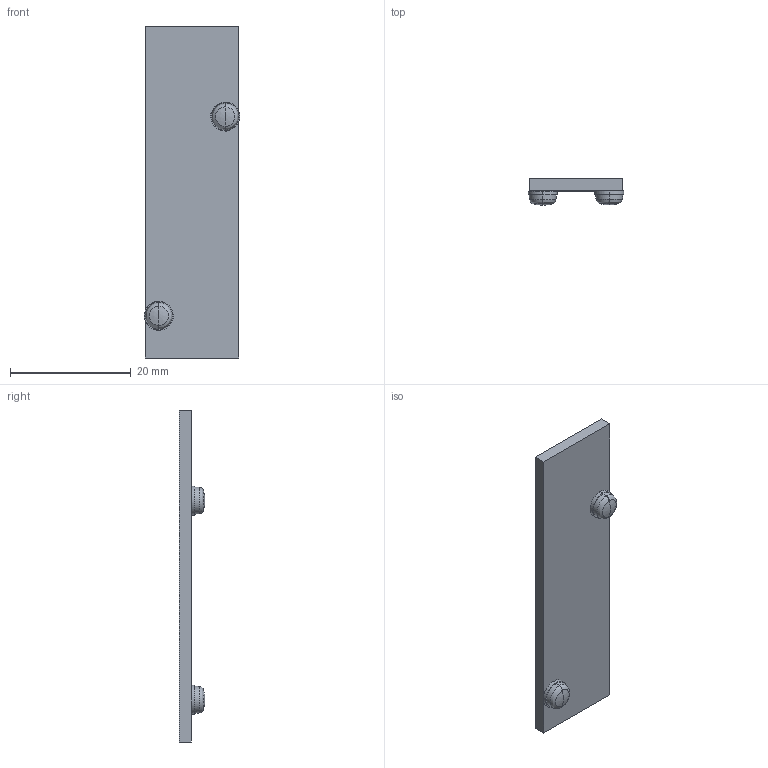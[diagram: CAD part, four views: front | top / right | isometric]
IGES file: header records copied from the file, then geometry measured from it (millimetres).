
Start section: ------------------------------------------------------------------------
Global section: file name: D:\ICADMX\tmp\trans3d_spg\CVICAD02.7120.F15XBPP_17230.igs; native system: spGate; preprocessor: ver12.6.6; author: Unknown; organization: Unknown; date: 210712.185101; units: millimetre
Bounding box: 15.8 x 4.3 x 55 mm (x, y, z)
Volume: 1770.8 mm3; surface area: 2036.3 mm2
Topology: 1 solids, 1 shells, 26 faces, 60 edges, 34 vertices
Faces by surface type: bspline 26
